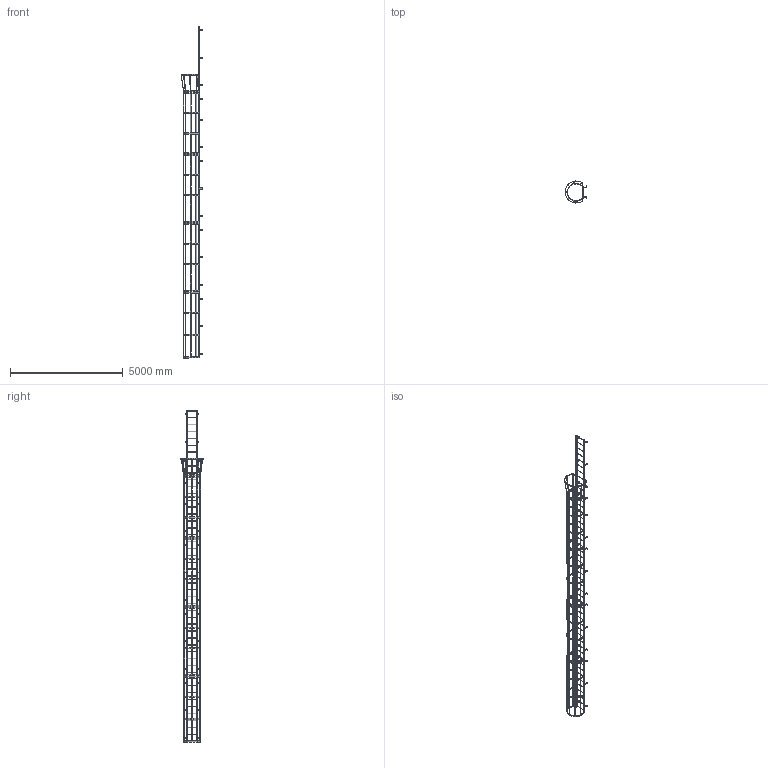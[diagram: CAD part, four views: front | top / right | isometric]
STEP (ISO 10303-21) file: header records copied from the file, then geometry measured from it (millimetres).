
FILE_DESCRIPTION(/* description */ (''),/* implementation_level */ '2;1');
FILE_NAME(/* name */ 'P:\MIKEL & KAREN\3570380 F49SC SIMPLIFIED PART.stp',/* time_stamp */ '2018-07-02T16:15:57-04:00',/* author */ ('stephanie'),/* organization */ (''),/* preprocessor_version */ 'ST-DEVELOPER v16.1',/* originating_system */ 'Autodesk Inventor 2016',/* authorisation */ '');
FILE_SCHEMA (('AUTOMOTIVE_DESIGN { 1 0 10303 214 3 1 1 }'));
Products named in the file (1): 3570380 F49SC SIMPLIFIED PART
Bounding box: 974.15 x 977.88 x 14706.6 mm (x, y, z)
Volume: 53665416.4 mm3; surface area: 19170228.8 mm2
Topology: 66 solids, 66 shells, 1645 faces, 5067 edges, 3278 vertices
Faces by surface type: plane 1108, cylinder 537
Full cylindrical faces by diameter (mm): 14.287 x38, 19.05 x49, 22.225 x98
Entity records: 57090 total; most frequent: ORIENTED_EDGE 9772, CARTESIAN_POINT 9534, DIRECTION 9388, EDGE_CURVE 4746, LINE 3396, VECTOR 3396, VERTEX_POINT 3142, AXIS2_PLACEMENT_3D 2996
